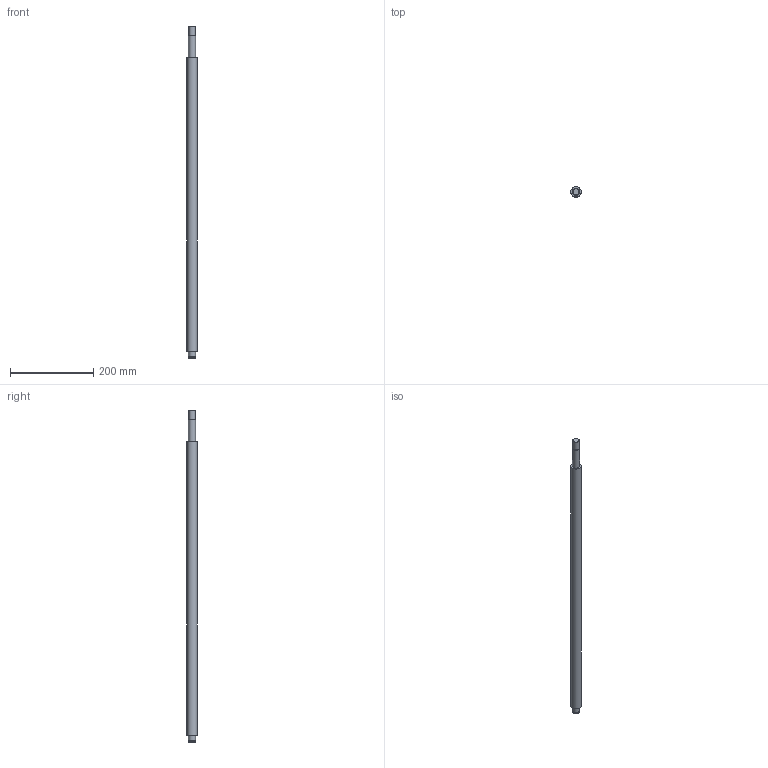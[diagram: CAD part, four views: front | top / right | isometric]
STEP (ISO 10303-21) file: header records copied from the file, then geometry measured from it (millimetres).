
FILE_DESCRIPTION(/* description */ (''),/* implementation_level */ '2;1');
FILE_NAME(/* name */ 'C:\Users\David Dillkötter\ownCloud\Kamp und Kötter\Artikel\_CAD-Dateien\CAD-Dateien-Shop\CAD-Dateien\Kugelumlaufspindel\2510\KUS2510x800.stp',/* time_stamp */ '2020-09-03T09:48:51+02:00',/* author */ ('David Dillkötter'),/* organization */ (''),/* preprocessor_version */ 'ST-DEVELOPER v18.1',/* originating_system */ 'Autodesk Inventor 2021',/* authorisation */ '');
FILE_SCHEMA (('AUTOMOTIVE_DESIGN { 1 0 10303 214 3 1 1 }'));
Length unit declared in the file: millimetre
Products named in the file (1): KUS2510_Gewindespindel
Bounding box: 25 x 25 x 800 mm (x, y, z)
Volume: 367236.1 mm3; surface area: 61368.3 mm2
Topology: 1 solids, 1 shells, 17 faces, 30 edges, 20 vertices
Faces by surface type: plane 7, cylinder 6, cone 4
Full cylindrical faces by diameter (mm): 15 x1, 16.2 x1, 17 x3, 25 x1
Entity records: 465 total; most frequent: DIRECTION 86, CARTESIAN_POINT 68, ORIENTED_EDGE 60, AXIS2_PLACEMENT_3D 38, EDGE_CURVE 30, EDGE_LOOP 22, CIRCLE 20, VERTEX_POINT 20
